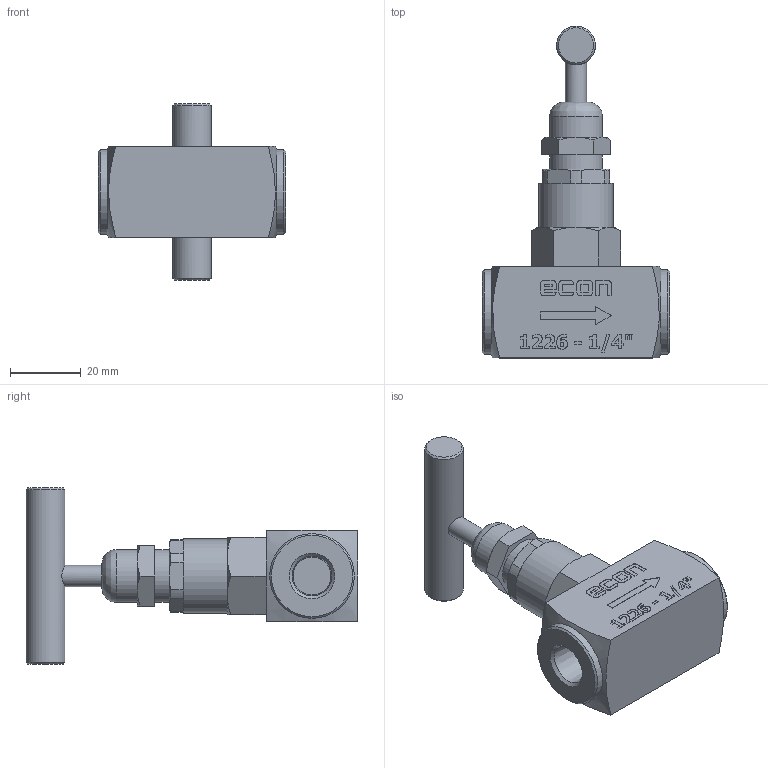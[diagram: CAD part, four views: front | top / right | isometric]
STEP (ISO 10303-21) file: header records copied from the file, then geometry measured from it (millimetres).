
FILE_DESCRIPTION(/* description */ (''),/* implementation_level */ '2;1');
FILE_NAME(/* name */ '1226-008-PN400.stp',/* time_stamp */ '2024-02-15T09:15:29+01:00',/* author */ ('roger.thijssen'),/* organization */ (''),/* preprocessor_version */ 'ST-DEVELOPER v19.2',/* originating_system */ 'Autodesk Inventor 2024',/* authorisation */ '');
FILE_SCHEMA (('AUTOMOTIVE_DESIGN { 1 0 10303 214 3 1 1 }'));
Length unit declared in the file: millimetre
Products named in the file (1): 1226-008-PN400
Bounding box: 53 x 94 x 50 mm (x, y, z)
Volume: 50481.7 mm3; surface area: 12355.6 mm2
Topology: 1 solids, 1 shells, 260 faces, 658 edges, 431 vertices
Faces by surface type: plane 162, bspline 42, cylinder 28, cone 28
Full cylindrical faces by diameter (mm): 6 x1, 10.719 x2, 11 x1, 15 x2, 21 x1, 24 x2
Entity records: 8418 total; most frequent: CARTESIAN_POINT 2165, ORIENTED_EDGE 1316, DIRECTION 1054, EDGE_CURVE 658, LINE 440, VECTOR 440, VERTEX_POINT 431, AXIS2_PLACEMENT_3D 307
